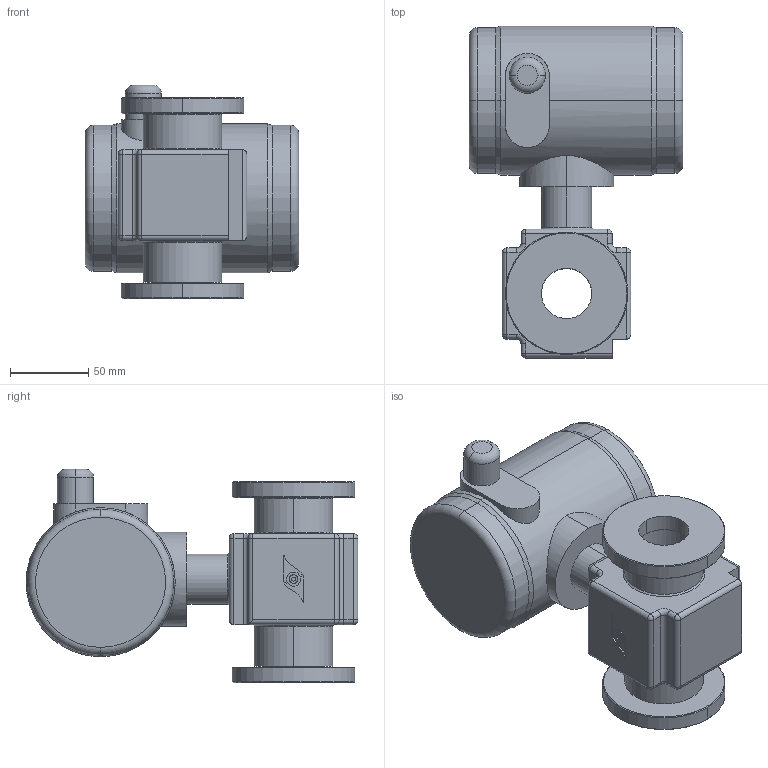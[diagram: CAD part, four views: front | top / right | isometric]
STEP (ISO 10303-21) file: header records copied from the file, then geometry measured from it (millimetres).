
FILE_DESCRIPTION (( 'STEP AP203' ), '1' );
FILE_NAME ('倳32.STEP', '2015-11-06T10:37:20', ( '' ), ( '' ), 'SwSTEP 2.0', 'SolidWorks 2015', '' );
FILE_SCHEMA (( 'CONFIG_CONTROL_DESIGN' ));
Length unit declared in the file: millimetre
Products named in the file (2): 倳32
Bounding box: 136 x 211.5 x 136 mm (x, y, z)
Volume: 1437005.5 mm3; surface area: 129055.2 mm2
Topology: 3 solids, 3 shells, 177 faces, 400 edges, 236 vertices
Faces by surface type: cylinder 76, plane 54, cone 18, torus 11, sphere 10, bspline 8
Entity records: 5274 total; most frequent: CARTESIAN_POINT 1149, DIRECTION 883, ORIENTED_EDGE 780, EDGE_CURVE 390, AXIS2_PLACEMENT_3D 346, VERTEX_POINT 236, EDGE_LOOP 200, VECTOR 191
